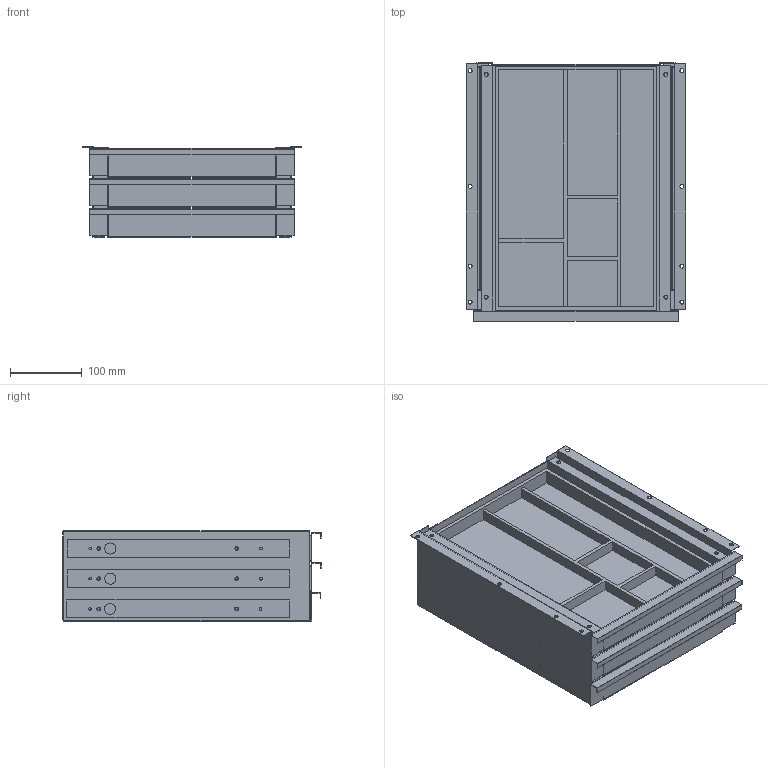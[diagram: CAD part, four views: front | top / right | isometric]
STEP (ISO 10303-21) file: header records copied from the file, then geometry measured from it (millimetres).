
FILE_DESCRIPTION( ( 'STEP AP214' ), '1' );
FILE_NAME( 'C:/Users/KOSH/Desktop/New folder/9309826.stp', '2022-01-27T11:30:01', ( '' ), ( '' ), ' ', 'PARTsolutions', ' ' );
FILE_SCHEMA( ( 'AUTOMOTIVE_DESIGN { 1 0 10303 214 1 1 1 1 }' ) );
Length unit declared in the file: millimetre
Products named in the file (12): 9309826; _Holder Tri l_5; _Holder Tri r_6; _ka1_310_8; _ka2_310_1_16; _ka3_310_l_12; _ka1_310r_9; _ka2_310_rr_17; _ka3_310_r_13; _Box_4; _tray_1_27; _tray_2_28
Assembly tree (26 placements, depth 2):
  9309826
    _Holder Tri l_5
    _Holder Tri r_6
    _ka1_310_8  x3
    _ka2_310_1_16  x3
    _ka3_310_l_12  x3
    _ka1_310r_9  x3
    _ka2_310_rr_17  x3
    _ka3_310_r_13  x3
    _Box_4  x3
    _tray_1_27
    _tray_2_28  x2
Bounding box: 305.6 x 359.44 x 126.5 mm (x, y, z)
Volume: 1570981.4 mm3; surface area: 2051633.6 mm2
Topology: 26 solids, 26 shells, 889 faces, 2510 edges, 1705 vertices
Faces by surface type: plane 649, cylinder 240
Full cylindrical faces by diameter (mm): 3.5 x42, 4 x6, 5 x38, 5.2 x18, 5.5 x20, 5.9 x6, 10 x6, 15.5 x6
Entity records: 14153 total; most frequent: CARTESIAN_POINT 1915, DIRECTION 1849, ORIENTED_EDGE 1794, EDGE_CURVE 897, LINE 709, VECTOR 709, VERTEX_POINT 636, AXIS2_PLACEMENT_3D 570
